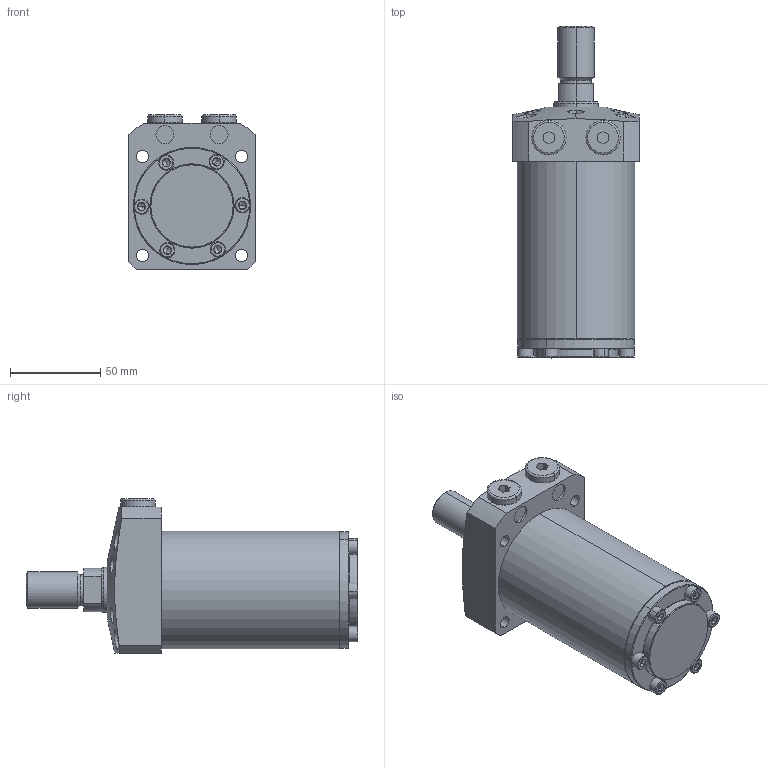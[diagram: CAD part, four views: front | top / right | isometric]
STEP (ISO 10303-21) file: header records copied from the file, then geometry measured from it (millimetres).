
FILE_DESCRIPTION (( 'STEP AP203' ), '1' );
FILE_NAME ('680650-CT-076.step', '2016-11-02T03:26:03', ( 'wxp' ), ( '' ), 'SwSTEP 2.0', 'SolidWorks 2011', '' );
FILE_SCHEMA (( 'CONFIG_CONTROL_DESIGN' ));
Length unit declared in the file: millimetre
Products named in the file (7): 680650-CT-076; 葩璃 680650-CA-15-11^680650-CT-076; 葩璃 68065-CA-51-6^680650-CT-076; 葩璃 68065-CA-51-5^680650-CT-076; 葩璃 68065-CA-51-4^680650-CT-076; 葩璃 68065-CA-51-3^680650-CT-076; 葩璃 68065-CA-51-1^680650-CT-076
Assembly tree (17 placements, depth 2):
  680650-CT-076
    葩璃 68065-CA-51-6^680650-CT-076  x2
    葩璃 68065-CA-51-5^680650-CT-076  x6
    葩璃 68065-CA-51-4^680650-CT-076  x6
    葩璃 68065-CA-51-1^680650-CT-076
    葩璃 68065-CA-51-3^680650-CT-076
    葩璃 680650-CA-15-11^680650-CT-076
Bounding box: 70 x 184 x 85.5 mm (x, y, z)
Volume: 517907.5 mm3; surface area: 77441.3 mm2
Topology: 17 solids, 17 shells, 548 faces, 1034 edges, 541 vertices
Faces by surface type: plane 235, cone 168, cylinder 129, torus 16
Entity records: 7489 total; most frequent: CARTESIAN_POINT 1816, DIRECTION 1071, ORIENTED_EDGE 872, AXIS2_PLACEMENT_3D 447, EDGE_CURVE 436, VERTEX_POINT 259, EDGE_LOOP 255, CIRCLE 215
